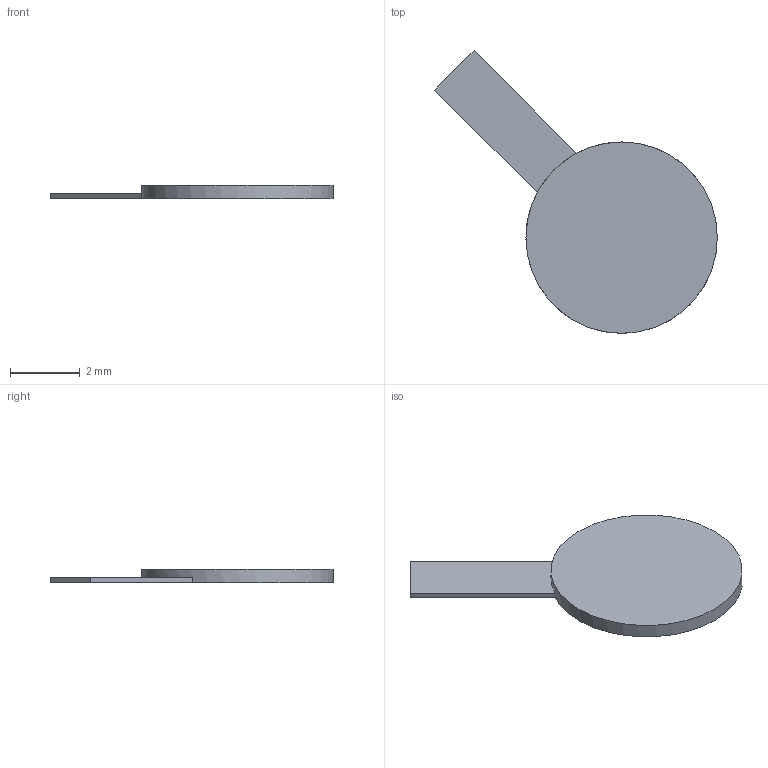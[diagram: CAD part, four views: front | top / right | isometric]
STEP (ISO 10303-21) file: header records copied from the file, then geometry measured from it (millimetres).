
FILE_DESCRIPTION(('Open CASCADE Model'),'2;1');
FILE_NAME('Open CASCADE Shape Model','2026-10-24T17:46:06',('Author'),( 'Open CASCADE'),'Open CASCADE STEP processor 8.0','Open CASCADE 8.0' ,'Unknown');
FILE_SCHEMA(('AUTOMOTIVE_DESIGN { 1 0 10303 214 1 1 1 1 }'));
Length unit declared in the file: millimetre
Products named in the file (1): Open CASCADE STEP translator 8.0 39
Bounding box: 8.12 x 8.12 x 0.4 mm (x, y, z)
Volume: 10.5 mm3; surface area: 68.8 mm2
Topology: 1 solids, 1 shells, 9 faces, 19 edges, 12 vertices
Faces by surface type: plane 8, cylinder 1
Full cylindrical faces by diameter (mm): 5.5 x1
Entity records: 495 total; most frequent: CARTESIAN_POINT 83, DIRECTION 78, LINE 42, VECTOR 42, ORIENTED_EDGE 38, PCURVE 38, DEFINITIONAL_REPRESENTATION 38, EDGE_CURVE 19
